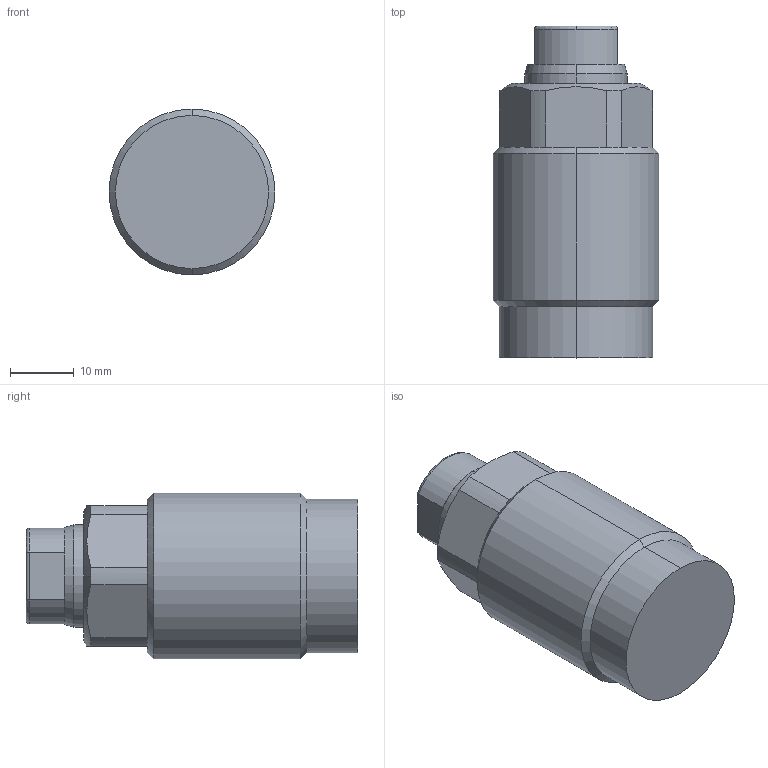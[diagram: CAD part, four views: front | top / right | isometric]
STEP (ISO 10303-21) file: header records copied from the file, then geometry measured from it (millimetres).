
FILE_DESCRIPTION (( 'STEP AP214' ), '1' );
FILE_NAME ('TC-16B.STEP', '2021-10-19T00:43:23', ( '' ), ( '' ), 'SwSTEP 2.0', 'SolidWorks 2016', '' );
FILE_SCHEMA (( 'AUTOMOTIVE_DESIGN' ));
Length unit declared in the file: millimetre
Products named in the file (1): TC-16B
Bounding box: 26 x 52 x 26 mm (x, y, z)
Volume: 22268.1 mm3; surface area: 4877.1 mm2
Topology: 1 solids, 1 shells, 50 faces, 112 edges, 65 vertices
Faces by surface type: cylinder 19, plane 18, cone 8, torus 3, sphere 2
Entity records: 1465 total; most frequent: DIRECTION 269, CARTESIAN_POINT 246, ORIENTED_EDGE 220, AXIS2_PLACEMENT_3D 112, EDGE_CURVE 110, VERTEX_POINT 65, CIRCLE 61, EDGE_LOOP 53
